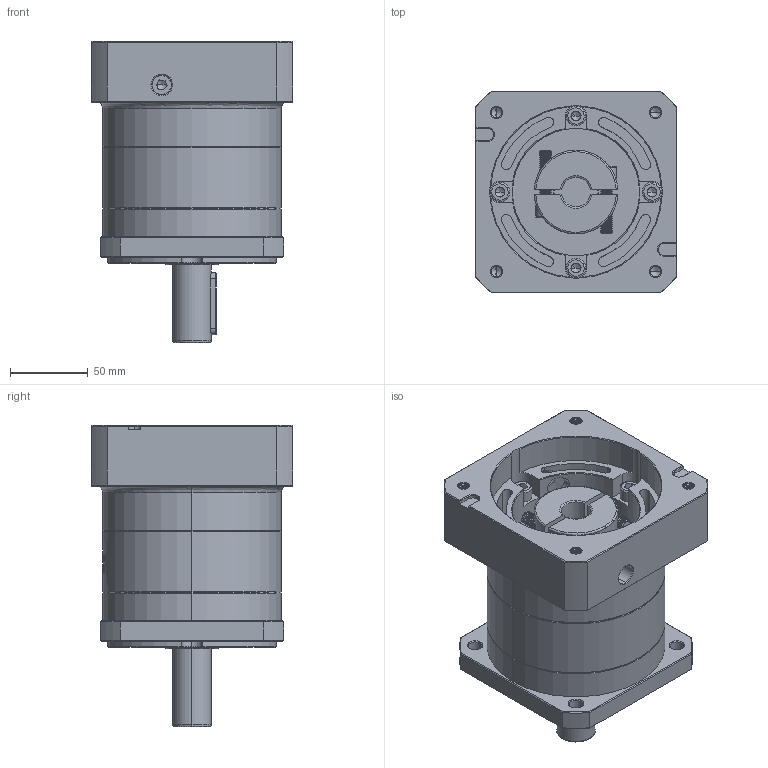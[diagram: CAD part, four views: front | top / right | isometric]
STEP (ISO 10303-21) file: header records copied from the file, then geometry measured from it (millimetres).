
FILE_DESCRIPTION (( 'STEP AP214' ), '1' );
FILE_NAME ('ZF120A-D25-L1-P2-19-110-145-M8.step', '2023-08-27T04:38:00', ( '' ), ( '' ), 'SwSTEP 2.0', 'SolidWorks 2016', '' );
FILE_SCHEMA (( 'AUTOMOTIVE_DESIGN' ));
Length unit declared in the file: millimetre
Products named in the file (1): ZF120A-D25-L1-P2-19-110-145-M8
Bounding box: 130 x 130 x 194 mm (x, y, z)
Volume: 1456577.1 mm3; surface area: 182188.4 mm2
Topology: 6 solids, 6 shells, 2276 faces, 6078 edges, 3901 vertices
Faces by surface type: plane 1060, cylinder 449, bspline 421, cone 327, torus 19
Entity records: 126260 total; most frequent: CARTESIAN_POINT 49919, ORIENTED_EDGE 12096, DIRECTION 8810, EDGE_CURVE 6048, VERTEX_POINT 3901, VECTOR 3172, LINE 3172, AXIS2_PLACEMENT_3D 2819
